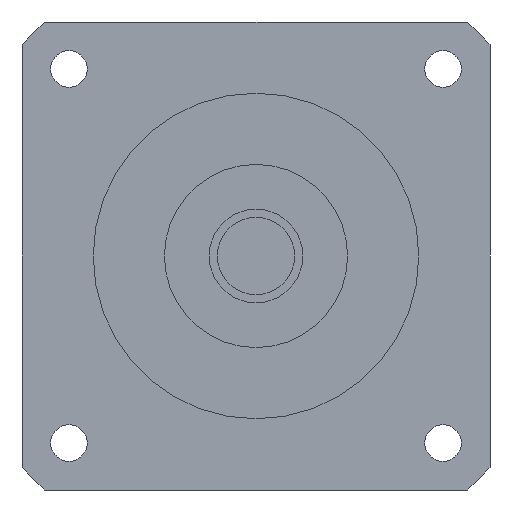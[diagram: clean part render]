
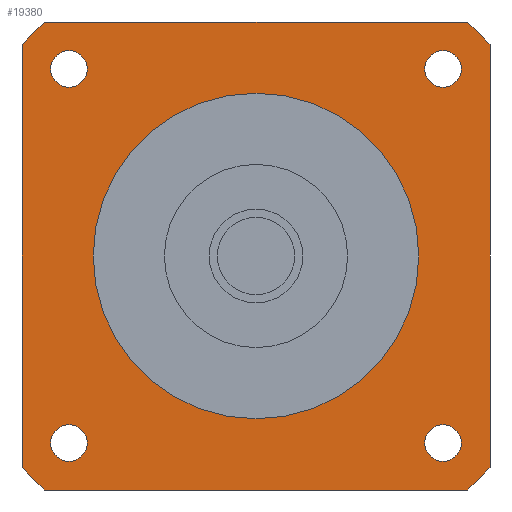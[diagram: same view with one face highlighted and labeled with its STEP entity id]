
A CAD part, left-side view. The second image highlights one B-rep face of the part: STEP entity #19380.
In plain terms, the highlighted planar face has unit normal (-1, 0, 0) as drawn and (0, 0, -1) by its records, which use the part's own axes.
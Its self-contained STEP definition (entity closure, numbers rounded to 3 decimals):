
#13850=CARTESIAN_POINT('',(-51.962,57.5,-43.));
#13860=VERTEX_POINT('',#13850);
#14020=CARTESIAN_POINT('',(-57.5,51.962,-43.));
#14030=VERTEX_POINT('',#14020);
#14060=CARTESIAN_POINT('',(0.,0.,
-43.));
#14070=DIRECTION('',(0.,0.,-1.));
#14080=DIRECTION('',(-1.,0.,0.));
#14090=AXIS2_PLACEMENT_3D('',#14060,#14070,#14080);
#14100=CIRCLE('',#14090,77.5);
#14110=EDGE_CURVE('',#14030,#13860,#14100,.T.);
#14270=CARTESIAN_POINT('',(57.5,-51.962,-43.));
#14280=VERTEX_POINT('',#14270);
#14310=CARTESIAN_POINT('',(0.,0.,
-43.));
#14320=DIRECTION('',(0.,0.,-1.));
#14330=DIRECTION('',(-1.,0.,0.));
#14340=AXIS2_PLACEMENT_3D('',#14310,#14320,#14330);
#14350=CIRCLE('',#14340,77.5);
#14360=CARTESIAN_POINT('',(51.962,-57.5,-43.));
#14370=VERTEX_POINT('',#14360);
#14380=EDGE_CURVE('',#14280,#14370,#14350,.T.);
#17950=CARTESIAN_POINT('',(50.462,-45.962,-43.));
#17960=VERTEX_POINT('',#17950);
#17990=CARTESIAN_POINT('',(45.962,-45.962,-43.));
#18000=DIRECTION('',(0.,0.,-1.));
#18010=DIRECTION('',(1.,0.,0.));
#18020=AXIS2_PLACEMENT_3D('',#17990,#18000,#18010);
#18030=CIRCLE('',#18020,4.5);
#18040=CARTESIAN_POINT('',(41.462,-45.962,-43.));
#18050=VERTEX_POINT('',#18040);
#18060=EDGE_CURVE('',#18050,#17960,#18030,.T.);
#18180=CARTESIAN_POINT('',(0.,0.,
-43.));
#18190=DIRECTION('',(0.,0.,-1.));
#18200=DIRECTION('',(1.,0.,0.));
#18210=AXIS2_PLACEMENT_3D('',#18180,#18190,#18200);
#18220=PLANE('',#18210);
#18230=CARTESIAN_POINT('',(45.962,45.962,-43.));
#18240=DIRECTION('',(0.,0.,-1.));
#18250=DIRECTION('',(1.,0.,0.));
#18260=AXIS2_PLACEMENT_3D('',#18230,#18240,#18250);
#18270=CIRCLE('',#18260,4.5);
#18280=CARTESIAN_POINT('',(50.462,45.962,-43.));
#18290=VERTEX_POINT('',#18280);
#18300=CARTESIAN_POINT('',(41.462,45.962,-43.));
#18310=VERTEX_POINT('',#18300);
#18320=EDGE_CURVE('',#18290,#18310,#18270,.T.);
#18330=ORIENTED_EDGE('',*,*,#18320,.F.);
#18340=EDGE_CURVE('',#18310,#18290,#18270,.T.);
#18350=ORIENTED_EDGE('',*,*,#18340,.F.);
#18360=EDGE_LOOP('',(#18350,#18330));
#18370=FACE_BOUND('',#18360,.T.);
#18380=CARTESIAN_POINT('',(-45.962,45.962,-43.));
#18390=DIRECTION('',(0.,0.,-1.));
#18400=DIRECTION('',(1.,0.,0.));
#18410=AXIS2_PLACEMENT_3D('',#18380,#18390,#18400);
#18420=CIRCLE('',#18410,4.5);
#18430=CARTESIAN_POINT('',(-41.462,45.962,-43.));
#18440=VERTEX_POINT('',#18430);
#18450=CARTESIAN_POINT('',(-50.462,45.962,-43.));
#18460=VERTEX_POINT('',#18450);
#18470=EDGE_CURVE('',#18440,#18460,#18420,.T.);
#18480=ORIENTED_EDGE('',*,*,#18470,.F.);
#18490=EDGE_CURVE('',#18460,#18440,#18420,.T.);
#18500=ORIENTED_EDGE('',*,*,#18490,.F.);
#18510=EDGE_LOOP('',(#18500,#18480));
#18520=FACE_BOUND('',#18510,.T.);
#18530=CARTESIAN_POINT('',(0.,0.,
-43.));
#18540=DIRECTION('',(0.,0.,1.));
#18550=DIRECTION('',(1.,0.,0.));
#18560=AXIS2_PLACEMENT_3D('',#18530,#18540,#18550);
#18570=CIRCLE('',#18560,40.);
#18580=CARTESIAN_POINT('',(40.,0.,-43.));
#18590=VERTEX_POINT('',#18580);
#18600=CARTESIAN_POINT('',(-40.,0.,-43.));
#18610=VERTEX_POINT('',#18600);
#18620=EDGE_CURVE('',#18590,#18610,#18570,.T.);
#18630=ORIENTED_EDGE('',*,*,#18620,.T.);
#18640=EDGE_CURVE('',#18610,#18590,#18570,.T.);
#18650=ORIENTED_EDGE('',*,*,#18640,.T.);
#18660=EDGE_LOOP('',(#18650,#18630));
#18670=FACE_BOUND('',#18660,.T.);
#18680=CARTESIAN_POINT('',(-45.962,-45.962,-43.));
#18690=DIRECTION('',(0.,0.,-1.));
#18700=DIRECTION('',(1.,0.,0.));
#18710=AXIS2_PLACEMENT_3D('',#18680,#18690,#18700);
#18720=CIRCLE('',#18710,4.5);
#18730=CARTESIAN_POINT('',(-41.462,-45.962,-43.));
#18740=VERTEX_POINT('',#18730);
#18750=CARTESIAN_POINT('',(-50.462,-45.962,-43.));
#18760=VERTEX_POINT('',#18750);
#18770=EDGE_CURVE('',#18740,#18760,#18720,.T.);
#18780=ORIENTED_EDGE('',*,*,#18770,.F.);
#18790=EDGE_CURVE('',#18760,#18740,#18720,.T.);
#18800=ORIENTED_EDGE('',*,*,#18790,.F.);
#18810=EDGE_LOOP('',(#18800,#18780));
#18820=FACE_BOUND('',#18810,.T.);
#18830=EDGE_CURVE('',#17960,#18050,#18030,.T.);
#18840=ORIENTED_EDGE('',*,*,#18830,.F.);
#18850=ORIENTED_EDGE('',*,*,#18060,.F.);
#18860=EDGE_LOOP('',(#18850,#18840));
#18870=FACE_BOUND('',#18860,.T.);
#18880=CARTESIAN_POINT('',(57.5,-57.5,-43.));
#18890=DIRECTION('',(-1.,0.,0.));
#18900=VECTOR('',#18890,1000.);
#18910=LINE('',#18880,#18900);
#18920=CARTESIAN_POINT('',(-51.962,-57.5,-43.));
#18930=VERTEX_POINT('',#18920);
#18940=EDGE_CURVE('',#14370,#18930,#18910,.T.);
#18950=ORIENTED_EDGE('',*,*,#18940,.T.);
#18960=ORIENTED_EDGE('',*,*,#14380,.T.);
#18970=CARTESIAN_POINT('',(57.5,57.5,-43.));
#18980=DIRECTION('',(0.,-1.,0.));
#18990=VECTOR('',#18980,1000.);
#19000=LINE('',#18970,#18990);
#19010=CARTESIAN_POINT('',(57.5,51.962,-43.));
#19020=VERTEX_POINT('',#19010);
#19030=EDGE_CURVE('',#19020,#14280,#19000,.T.);
#19040=ORIENTED_EDGE('',*,*,#19030,.T.);
#19050=CARTESIAN_POINT('',(0.,0.,
-43.));
#19060=DIRECTION('',(0.,0.,-1.));
#19070=DIRECTION('',(-1.,0.,0.));
#19080=AXIS2_PLACEMENT_3D('',#19050,#19060,#19070);
#19090=CIRCLE('',#19080,77.5);
#19100=CARTESIAN_POINT('',(51.962,57.5,-43.));
#19110=VERTEX_POINT('',#19100);
#19120=EDGE_CURVE('',#19110,#19020,#19090,.T.);
#19130=ORIENTED_EDGE('',*,*,#19120,.T.);
#19140=CARTESIAN_POINT('',(-57.5,57.5,-43.));
#19150=DIRECTION('',(1.,0.,0.));
#19160=VECTOR('',#19150,1000.);
#19170=LINE('',#19140,#19160);
#19180=EDGE_CURVE('',#13860,#19110,#19170,.T.);
#19190=ORIENTED_EDGE('',*,*,#19180,.T.);
#19200=ORIENTED_EDGE('',*,*,#14110,.T.);
#19210=CARTESIAN_POINT('',(-57.5,-57.5,-43.));
#19220=DIRECTION('',(0.,1.,0.));
#19230=VECTOR('',#19220,1000.);
#19240=LINE('',#19210,#19230);
#19250=CARTESIAN_POINT('',(-57.5,-51.962,-43.));
#19260=VERTEX_POINT('',#19250);
#19270=EDGE_CURVE('',#19260,#14030,#19240,.T.);
#19280=ORIENTED_EDGE('',*,*,#19270,.T.);
#19290=CARTESIAN_POINT('',(0.,0.,
-43.));
#19300=DIRECTION('',(0.,0.,-1.));
#19310=DIRECTION('',(-1.,0.,0.));
#19320=AXIS2_PLACEMENT_3D('',#19290,#19300,#19310);
#19330=CIRCLE('',#19320,77.5);
#19340=EDGE_CURVE('',#18930,#19260,#19330,.T.);
#19350=ORIENTED_EDGE('',*,*,#19340,.T.);
#19360=EDGE_LOOP('',(#19350,#19280,#19200,#19190,#19130,#19040,#18960,
#18950));
#19370=FACE_OUTER_BOUND('',#19360,.T.);
#19380=ADVANCED_FACE('',(#18370,#18520,#18670,#18820,#18870,#19370),
#18220,.T.);
